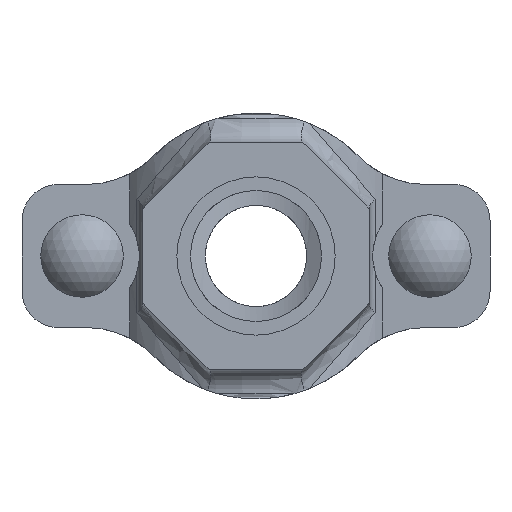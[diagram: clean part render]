
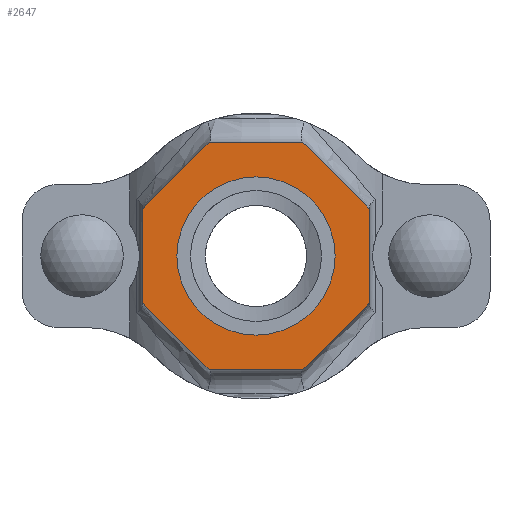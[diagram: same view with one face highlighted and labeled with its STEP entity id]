
A CAD part, front view. The second image highlights one B-rep face of the part: STEP entity #2647.
In plain terms, the highlighted planar face has unit normal (0, -1, 0) as drawn and (0, 1, 0) by its records, which use the part's own axes.
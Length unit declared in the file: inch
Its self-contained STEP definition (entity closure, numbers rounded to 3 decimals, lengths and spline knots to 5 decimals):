
#207=FACE_BOUND('',#488,.T.);
#331=FACE_OUTER_BOUND('',#487,.T.);
#487=EDGE_LOOP('',(#2233,#2234,#2235,#2236,#2237,#2238,#2239,#2240));
#488=EDGE_LOOP('',(#2241));
#628=LINE('',#4921,#816);
#631=LINE('',#4926,#819);
#633=LINE('',#4930,#821);
#635=LINE('',#4934,#823);
#671=LINE('',#5233,#859);
#673=LINE('',#5237,#861);
#675=LINE('',#5241,#863);
#677=LINE('',#5244,#865);
#816=VECTOR('',#3407,0.3937);
#819=VECTOR('',#3412,0.3937);
#821=VECTOR('',#3416,0.3937);
#823=VECTOR('',#3420,0.3937);
#859=VECTOR('',#3550,0.3937);
#861=VECTOR('',#3554,0.3937);
#863=VECTOR('',#3558,0.3937);
#865=VECTOR('',#3562,0.3937);
#952=CIRCLE('',#2917,0.83);
#1151=VERTEX_POINT('',#4918);
#1152=VERTEX_POINT('',#4920);
#1153=VERTEX_POINT('',#4924);
#1154=VERTEX_POINT('',#4928);
#1155=VERTEX_POINT('',#4932);
#1183=VERTEX_POINT('',#5094);
#1205=VERTEX_POINT('',#5232);
#1206=VERTEX_POINT('',#5236);
#1207=VERTEX_POINT('',#5240);
#1479=EDGE_CURVE('',#1152,#1151,#628,.T.);
#1482=EDGE_CURVE('',#1151,#1153,#631,.T.);
#1484=EDGE_CURVE('',#1153,#1154,#633,.T.);
#1486=EDGE_CURVE('',#1154,#1155,#635,.T.);
#1527=EDGE_CURVE('',#1183,#1183,#952,.T.);
#1557=EDGE_CURVE('',#1205,#1152,#671,.T.);
#1559=EDGE_CURVE('',#1206,#1205,#673,.T.);
#1561=EDGE_CURVE('',#1207,#1206,#675,.T.);
#1563=EDGE_CURVE('',#1155,#1207,#677,.T.);
#2233=ORIENTED_EDGE('',*,*,#1563,.T.);
#2234=ORIENTED_EDGE('',*,*,#1561,.T.);
#2235=ORIENTED_EDGE('',*,*,#1559,.T.);
#2236=ORIENTED_EDGE('',*,*,#1557,.T.);
#2237=ORIENTED_EDGE('',*,*,#1479,.T.);
#2238=ORIENTED_EDGE('',*,*,#1482,.T.);
#2239=ORIENTED_EDGE('',*,*,#1484,.T.);
#2240=ORIENTED_EDGE('',*,*,#1486,.T.);
#2241=ORIENTED_EDGE('',*,*,#1527,.T.);
#2378=PLANE('',#2938);
#2647=ADVANCED_FACE('',(#331,#207),#2378,.T.);
#2917=AXIS2_PLACEMENT_3D('',#5095,#3500,#3501);
#2938=AXIS2_PLACEMENT_3D('',#5245,#3563,#3564);
#3407=DIRECTION('',(0.,0.,1.));
#3412=DIRECTION('',(0.707,0.,0.707));
#3416=DIRECTION('',(1.,0.,0.));
#3420=DIRECTION('',(0.707,0.,-0.707));
#3500=DIRECTION('center_axis',(0.,-1.,0.));
#3501=DIRECTION('ref_axis',(-1.,0.,0.));
#3550=DIRECTION('',(-0.707,0.,0.707));
#3554=DIRECTION('',(-1.,0.,0.));
#3558=DIRECTION('',(-0.707,0.,-0.707));
#3562=DIRECTION('',(0.,0.,-1.));
#3563=DIRECTION('center_axis',(0.,1.,0.));
#3564=DIRECTION('ref_axis',(0.,0.,1.));
#4918=CARTESIAN_POINT('',(-1.19,2.75,0.49291));
#4920=CARTESIAN_POINT('',(-1.19,2.75,-0.49291));
#4921=CARTESIAN_POINT('',(-1.19,2.75,0.49291));
#4924=CARTESIAN_POINT('',(-0.49291,2.75,1.19));
#4926=CARTESIAN_POINT('',(-0.49291,2.75,1.19));
#4928=CARTESIAN_POINT('',(0.49291,2.75,1.19));
#4930=CARTESIAN_POINT('',(0.49291,2.75,1.19));
#4932=CARTESIAN_POINT('',(1.19,2.75,0.49291));
#4934=CARTESIAN_POINT('',(1.19,2.75,0.49291));
#5094=CARTESIAN_POINT('',(0.83,2.75,0.));
#5095=CARTESIAN_POINT('Origin',(0.,2.75,0.));
#5232=CARTESIAN_POINT('',(-0.49291,2.75,-1.19));
#5233=CARTESIAN_POINT('',(-1.19,2.75,-0.49291));
#5236=CARTESIAN_POINT('',(0.49291,2.75,-1.19));
#5237=CARTESIAN_POINT('',(-0.49291,2.75,-1.19));
#5240=CARTESIAN_POINT('',(1.19,2.75,-0.49291));
#5241=CARTESIAN_POINT('',(0.49291,2.75,-1.19));
#5244=CARTESIAN_POINT('',(1.19,2.75,-0.49291));
#5245=CARTESIAN_POINT('Origin',(0.,2.75,0.));
